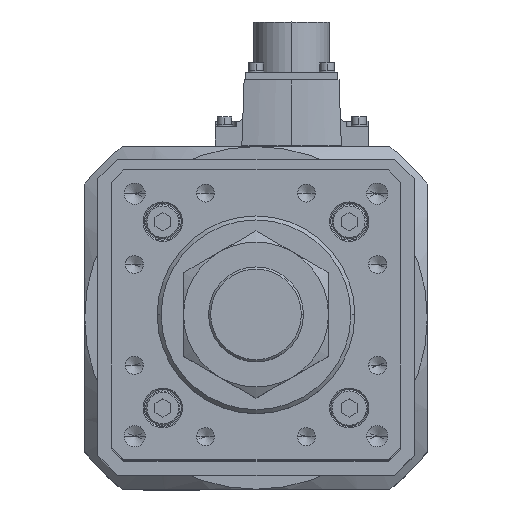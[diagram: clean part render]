
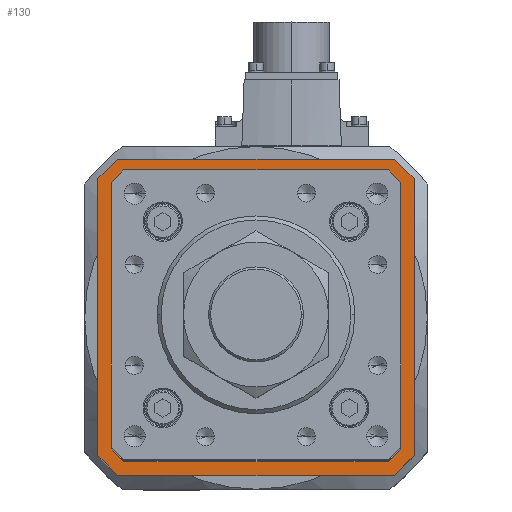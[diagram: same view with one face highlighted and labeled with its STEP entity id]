
A CAD part, top view. The second image highlights one B-rep face of the part: STEP entity #130.
In plain terms, the highlighted planar face has unit normal (0, 0, 1).
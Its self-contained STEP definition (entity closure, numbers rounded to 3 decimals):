
#34 = VERTEX_POINT ( 'NONE', #5238 ) ;
#126 = DIRECTION ( 'NONE',  ( -0.707, 0.707, 0. ) ) ;
#130 = ADVANCED_FACE ( 'NONE', ( #31841, #28691 ), #5985, .T. ) ;
#148 = CARTESIAN_POINT ( 'NONE',  ( 49.593, 53.5, -119. ) ) ;
#294 = CARTESIAN_POINT ( 'NONE',  ( -60., 52.5, -119. ) ) ;
#527 = EDGE_CURVE ( 'NONE', #17313, #10586, #21424, .T. ) ;
#650 = CARTESIAN_POINT ( 'NONE',  ( 60., -52.5, -119. ) ) ;
#996 = VECTOR ( 'NONE', #31508, 1000. ) ;
#1022 = CARTESIAN_POINT ( 'NONE',  ( -52.5, 60., -119. ) ) ;
#1199 = ORIENTED_EDGE ( 'NONE', *, *, #29527, .T. ) ;
#1378 = CARTESIAN_POINT ( 'NONE',  ( 52.5, -60., -119. ) ) ;
#1687 = ORIENTED_EDGE ( 'NONE', *, *, #14362, .T. ) ;
#1888 = DIRECTION ( 'NONE',  ( 0., 1., 0. ) ) ;
#2187 = VERTEX_POINT ( 'NONE', #22735 ) ;
#2406 = ORIENTED_EDGE ( 'NONE', *, *, #12032, .F. ) ;
#2504 = EDGE_CURVE ( 'NONE', #23021, #29857, #20819, .T. ) ;
#2589 = VERTEX_POINT ( 'NONE', #6949 ) ;
#2654 = DIRECTION ( 'NONE',  ( 1., 0., 0. ) ) ;
#2752 = EDGE_LOOP ( 'NONE', ( #28034, #2406, #29765, #14145, #5965, #35761, #34606, #33146 ) ) ;
#2905 = DIRECTION ( 'NONE',  ( 0., 0., 1. ) ) ;
#3147 = VECTOR ( 'NONE', #32883, 1000. ) ;
#3229 = LINE ( 'NONE', #1378, #19621 ) ;
#3849 = CARTESIAN_POINT ( 'NONE',  ( -49.446, 53.646, -119. ) ) ;
#4148 = ORIENTED_EDGE ( 'NONE', *, *, #23169, .T. ) ;
#4460 = CARTESIAN_POINT ( 'NONE',  ( -60., -52.5, -119. ) ) ;
#4776 = CARTESIAN_POINT ( 'NONE',  ( -49.593, 53.5, -119. ) ) ;
#4821 = VECTOR ( 'NONE', #34693, 1000. ) ;
#4891 = LINE ( 'NONE', #11547, #15329 ) ;
#4933 = DIRECTION ( 'NONE',  ( 1., 0., 0. ) ) ;
#5118 = VERTEX_POINT ( 'NONE', #12480 ) ;
#5217 = LINE ( 'NONE', #31953, #16113 ) ;
#5238 = CARTESIAN_POINT ( 'NONE',  ( -53.5, -49.593, -119. ) ) ;
#5965 = ORIENTED_EDGE ( 'NONE', *, *, #13473, .F. ) ;
#5985 = PLANE ( 'NONE',  #29139 ) ;
#6949 = CARTESIAN_POINT ( 'NONE',  ( -53.5, 49.593, -119. ) ) ;
#8590 = EDGE_CURVE ( 'NONE', #2589, #23021, #20010, .T. ) ;
#8597 = VERTEX_POINT ( 'NONE', #12330 ) ;
#9055 = EDGE_CURVE ( 'NONE', #17228, #11789, #33570, .T. ) ;
#9229 = EDGE_LOOP ( 'NONE', ( #35972, #1687, #24619, #1199, #4148, #26450, #26117, #28307 ) ) ;
#10586 = VERTEX_POINT ( 'NONE', #294 ) ;
#10810 = VECTOR ( 'NONE', #4933, 1000. ) ;
#11160 = VERTEX_POINT ( 'NONE', #17260 ) ;
#11547 = CARTESIAN_POINT ( 'NONE',  ( 60., 52.5, -119. ) ) ;
#11661 = CARTESIAN_POINT ( 'NONE',  ( 49.446, -53.646, -119. ) ) ;
#11789 = VERTEX_POINT ( 'NONE', #29967 ) ;
#12032 = EDGE_CURVE ( 'NONE', #10586, #17228, #12903, .T. ) ;
#12330 = CARTESIAN_POINT ( 'NONE',  ( 49.593, -53.5, -119. ) ) ;
#12407 = EDGE_CURVE ( 'NONE', #13391, #13058, #28301, .T. ) ;
#12480 = CARTESIAN_POINT ( 'NONE',  ( 53.5, 49.593, -119. ) ) ;
#12903 = LINE ( 'NONE', #27452, #20639 ) ;
#13058 = VERTEX_POINT ( 'NONE', #27252 ) ;
#13391 = VERTEX_POINT ( 'NONE', #650 ) ;
#13399 = LINE ( 'NONE', #11661, #33382 ) ;
#13473 = EDGE_CURVE ( 'NONE', #13058, #2187, #3229, .T. ) ;
#13697 = VECTOR ( 'NONE', #27905, 1000. ) ;
#13722 = LINE ( 'NONE', #22666, #996 ) ;
#13809 = CARTESIAN_POINT ( 'NONE',  ( 49.8, 53.5, -119. ) ) ;
#14145 = ORIENTED_EDGE ( 'NONE', *, *, #21282, .F. ) ;
#14333 = DIRECTION ( 'NONE',  ( 0., -1., 0. ) ) ;
#14362 = EDGE_CURVE ( 'NONE', #29857, #5118, #13722, .T. ) ;
#14465 = DIRECTION ( 'NONE',  ( -0.707, 0.707, 0. ) ) ;
#14723 = DIRECTION ( 'NONE',  ( -0.707, -0.707, 0. ) ) ;
#15148 = EDGE_CURVE ( 'NONE', #11789, #11160, #34064, .T. ) ;
#15329 = VECTOR ( 'NONE', #14333, 1000. ) ;
#15408 = VECTOR ( 'NONE', #2654, 1000. ) ;
#15745 = DIRECTION ( 'NONE',  ( -1., 0., 0. ) ) ;
#16113 = VECTOR ( 'NONE', #14465, 1000. ) ;
#16249 = CARTESIAN_POINT ( 'NONE',  ( -60., 52.5, -119. ) ) ;
#17228 = VERTEX_POINT ( 'NONE', #1022 ) ;
#17260 = CARTESIAN_POINT ( 'NONE',  ( 60., 52.5, -119. ) ) ;
#17313 = VERTEX_POINT ( 'NONE', #4460 ) ;
#17383 = EDGE_CURVE ( 'NONE', #34, #2589, #37083, .T. ) ;
#17386 = VECTOR ( 'NONE', #17684, 1000. ) ;
#17684 = DIRECTION ( 'NONE',  ( -1., 0., 0. ) ) ;
#18507 = LINE ( 'NONE', #35136, #27605 ) ;
#18794 = CARTESIAN_POINT ( 'NONE',  ( 60., 52.5, -119. ) ) ;
#18874 = VERTEX_POINT ( 'NONE', #31115 ) ;
#19402 = EDGE_CURVE ( 'NONE', #11160, #13391, #4891, .T. ) ;
#19575 = EDGE_CURVE ( 'NONE', #24498, #34, #18507, .T. ) ;
#19621 = VECTOR ( 'NONE', #15745, 1000. ) ;
#20010 = LINE ( 'NONE', #3849, #3147 ) ;
#20639 = VECTOR ( 'NONE', #33540, 1000. ) ;
#20718 = EDGE_CURVE ( 'NONE', #5118, #18874, #27970, .T. ) ;
#20819 = LINE ( 'NONE', #13809, #10810 ) ;
#20964 = CARTESIAN_POINT ( 'NONE',  ( 60., -52.5, -119. ) ) ;
#21282 = EDGE_CURVE ( 'NONE', #2187, #17313, #5217, .T. ) ;
#21424 = LINE ( 'NONE', #16249, #13697 ) ;
#21638 = VECTOR ( 'NONE', #1888, 1000. ) ;
#22386 = LINE ( 'NONE', #31873, #17386 ) ;
#22666 = CARTESIAN_POINT ( 'NONE',  ( 53.646, 49.446, -119. ) ) ;
#22735 = CARTESIAN_POINT ( 'NONE',  ( -52.5, -60., -119. ) ) ;
#22754 = CARTESIAN_POINT ( 'NONE',  ( 52.5, 60., -119. ) ) ;
#22922 = CARTESIAN_POINT ( 'NONE',  ( 53.5, -49.8, -119. ) ) ;
#23021 = VERTEX_POINT ( 'NONE', #4776 ) ;
#23169 = EDGE_CURVE ( 'NONE', #8597, #24498, #22386, .T. ) ;
#24498 = VERTEX_POINT ( 'NONE', #27673 ) ;
#24619 = ORIENTED_EDGE ( 'NONE', *, *, #20718, .T. ) ;
#24898 = CARTESIAN_POINT ( 'NONE',  ( -53.5, 49.8, -119. ) ) ;
#26117 = ORIENTED_EDGE ( 'NONE', *, *, #17383, .T. ) ;
#26251 = DIRECTION ( 'NONE',  ( -0.707, -0.707, 0. ) ) ;
#26450 = ORIENTED_EDGE ( 'NONE', *, *, #19575, .T. ) ;
#27252 = CARTESIAN_POINT ( 'NONE',  ( 52.5, -60., -119. ) ) ;
#27266 = DIRECTION ( 'NONE',  ( 0.707, -0.707, 0. ) ) ;
#27452 = CARTESIAN_POINT ( 'NONE',  ( -52.5, 60., -119. ) ) ;
#27605 = VECTOR ( 'NONE', #126, 1000. ) ;
#27673 = CARTESIAN_POINT ( 'NONE',  ( -49.593, -53.5, -119. ) ) ;
#27905 = DIRECTION ( 'NONE',  ( 0., 1., 0. ) ) ;
#27970 = LINE ( 'NONE', #22922, #4821 ) ;
#28034 = ORIENTED_EDGE ( 'NONE', *, *, #9055, .F. ) ;
#28301 = LINE ( 'NONE', #20964, #31924 ) ;
#28307 = ORIENTED_EDGE ( 'NONE', *, *, #8590, .T. ) ;
#28691 = FACE_OUTER_BOUND ( 'NONE', #2752, .T. ) ;
#28947 = DIRECTION ( 'NONE',  ( 1., 0., 0. ) ) ;
#29139 = AXIS2_PLACEMENT_3D ( 'NONE', #34663, #2905, #28947 ) ;
#29527 = EDGE_CURVE ( 'NONE', #18874, #8597, #13399, .T. ) ;
#29765 = ORIENTED_EDGE ( 'NONE', *, *, #527, .F. ) ;
#29857 = VERTEX_POINT ( 'NONE', #148 ) ;
#29967 = CARTESIAN_POINT ( 'NONE',  ( 52.5, 60., -119. ) ) ;
#31115 = CARTESIAN_POINT ( 'NONE',  ( 53.5, -49.593, -119. ) ) ;
#31508 = DIRECTION ( 'NONE',  ( 0.707, -0.707, 0. ) ) ;
#31841 = FACE_BOUND ( 'NONE', #9229, .T. ) ;
#31873 = CARTESIAN_POINT ( 'NONE',  ( -49.8, -53.5, -119. ) ) ;
#31924 = VECTOR ( 'NONE', #14723, 1000. ) ;
#31953 = CARTESIAN_POINT ( 'NONE',  ( -52.5, -60., -119. ) ) ;
#32883 = DIRECTION ( 'NONE',  ( 0.707, 0.707, 0. ) ) ;
#33146 = ORIENTED_EDGE ( 'NONE', *, *, #15148, .F. ) ;
#33382 = VECTOR ( 'NONE', #26251, 1000. ) ;
#33540 = DIRECTION ( 'NONE',  ( 0.707, 0.707, 0. ) ) ;
#33570 = LINE ( 'NONE', #22754, #15408 ) ;
#34064 = LINE ( 'NONE', #18794, #35430 ) ;
#34606 = ORIENTED_EDGE ( 'NONE', *, *, #19402, .F. ) ;
#34663 = CARTESIAN_POINT ( 'NONE',  ( 0., 0., -119. ) ) ;
#34693 = DIRECTION ( 'NONE',  ( 0., -1., 0. ) ) ;
#35136 = CARTESIAN_POINT ( 'NONE',  ( -53.646, -49.446, -119. ) ) ;
#35430 = VECTOR ( 'NONE', #27266, 1000. ) ;
#35761 = ORIENTED_EDGE ( 'NONE', *, *, #12407, .F. ) ;
#35972 = ORIENTED_EDGE ( 'NONE', *, *, #2504, .T. ) ;
#37083 = LINE ( 'NONE', #24898, #21638 ) ;
